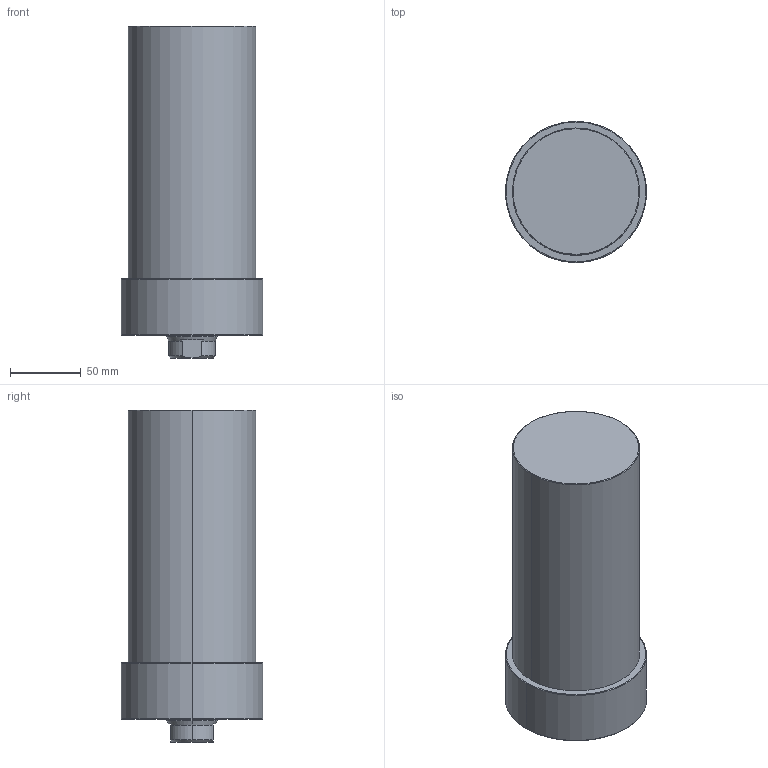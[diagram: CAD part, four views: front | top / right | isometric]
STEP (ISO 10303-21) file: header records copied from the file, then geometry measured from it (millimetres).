
FILE_DESCRIPTION (( 'STEP AP203' ), '1' );
FILE_NAME ('CLLU-090GA-125.STEP', '2020-01-13T05:35:13', ( '' ), ( '' ), 'SwSTEP 2.0', 'SolidWorks 2015', '' );
FILE_SCHEMA (( 'CONFIG_CONTROL_DESIGN' ));
Length unit declared in the file: millimetre
Products named in the file (1): CLLU-090GA-125
Bounding box: 100 x 100 x 235 mm (x, y, z)
Volume: 1446646 mm3; surface area: 86088.1 mm2
Topology: 1 solids, 1 shells, 64 faces, 143 edges, 80 vertices
Faces by surface type: cone 25, cylinder 23, plane 10, torus 6
Entity records: 1809 total; most frequent: DIRECTION 330, CARTESIAN_POINT 322, ORIENTED_EDGE 266, AXIS2_PLACEMENT_3D 140, EDGE_CURVE 133, VERTEX_POINT 80, CIRCLE 75, EDGE_LOOP 73
